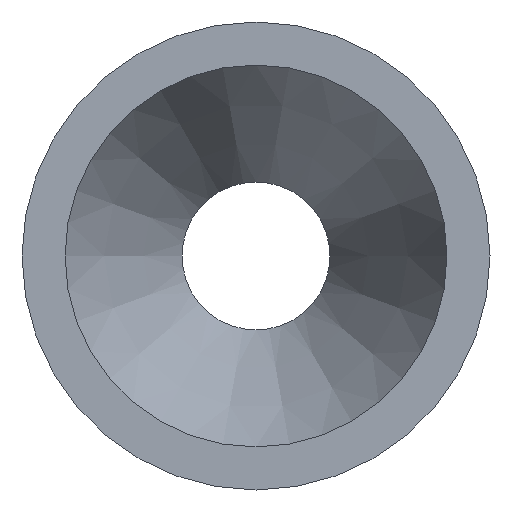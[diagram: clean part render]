
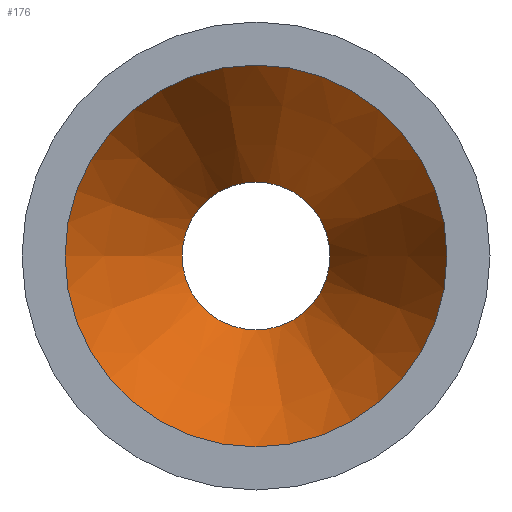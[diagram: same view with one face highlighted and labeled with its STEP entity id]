
A CAD part, left-side view. The second image highlights one B-rep face of the part: STEP entity #176.
In plain terms, the highlighted conical face has half-angle 25.677 degrees and reference radius 14.15 mm.
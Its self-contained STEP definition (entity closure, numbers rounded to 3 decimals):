
#128=CARTESIAN_POINT('',(86.952,7.9,0.));
#129=VERTEX_POINT('',#128);
#136=CARTESIAN_POINT('',(86.952,0.,0.));
#137=DIRECTION('',(1.,0.,0.));
#138=DIRECTION('',(0.,1.,0.));
#139=AXIS2_PLACEMENT_3D('',#136,#137,#138);
#140=CIRCLE('',#139,7.9);
#141=EDGE_CURVE('',#129,#129,#140,.T.);
#152=ORIENTED_EDGE('',*,*,#141,.T.);
#153=CARTESIAN_POINT('',(60.952,20.4,0.));
#154=VERTEX_POINT('',#153);
#155=CARTESIAN_POINT('',(73.952,14.15,0.));
#156=DIRECTION('',(0.901,-0.433,0.));
#157=VECTOR('',#156,14.15);
#158=LINE('',#155,#157);
#159=EDGE_CURVE('',#154,#129,#158,.T.);
#160=ORIENTED_EDGE('',*,*,#159,.F.);
#161=CARTESIAN_POINT('',(60.952,0.,0.));
#162=DIRECTION('',(1.,0.,0.));
#163=DIRECTION('',(0.,1.,0.));
#164=AXIS2_PLACEMENT_3D('',#161,#162,#163);
#165=CIRCLE('',#164,20.4);
#166=EDGE_CURVE('',#154,#154,#165,.T.);
#167=ORIENTED_EDGE('',*,*,#166,.F.);
#168=ORIENTED_EDGE('',*,*,#159,.T.);
#169=EDGE_LOOP('',(#152,#160,#167,#168));
#170=FACE_OUTER_BOUND('',#169,.T.);
#171=CARTESIAN_POINT('',(73.952,0.,0.));
#172=DIRECTION('',(-1.,0.,0.));
#173=DIRECTION('',(0.,1.,0.));
#174=AXIS2_PLACEMENT_3D('',#171,#172,#173);
#175=CONICAL_SURFACE('',#174,14.15,0.448);
#176=ADVANCED_FACE('',(#170),#175,.F.);
